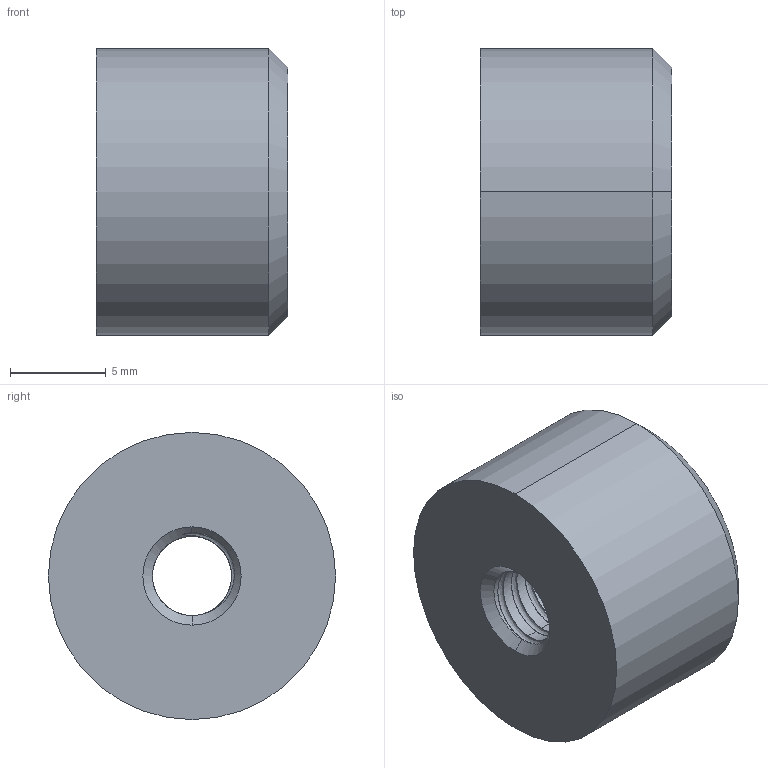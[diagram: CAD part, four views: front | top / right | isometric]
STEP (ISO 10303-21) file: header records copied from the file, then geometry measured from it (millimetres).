
FILE_DESCRIPTION (( 'STEP AP203' ), '1' );
FILE_NAME ('KD-208-1.STEP', '2009-08-13T08:40:50', ( 'kj06' ), ( 'kongjin' ), 'SwSTEP 2.0', 'SolidWorks 2007', '' );
FILE_SCHEMA (( 'CONFIG_CONTROL_DESIGN' ));
Length unit declared in the file: millimetre
Products named in the file (1): KD-208-1
Bounding box: 10 x 15 x 15 mm (x, y, z)
Volume: 1593.7 mm3; surface area: 918.9 mm2
Topology: 1 solids, 1 shells, 35 faces, 93 edges, 60 vertices
Faces by surface type: cylinder 22, cone 8, bspline 3, plane 2
Entity records: 4658 total; most frequent: CARTESIAN_POINT 3837, ORIENTED_EDGE 186, DIRECTION 127, EDGE_CURVE 93, VERTEX_POINT 60, AXIS2_PLACEMENT_3D 49, EDGE_LOOP 37, ADVANCED_FACE 35
